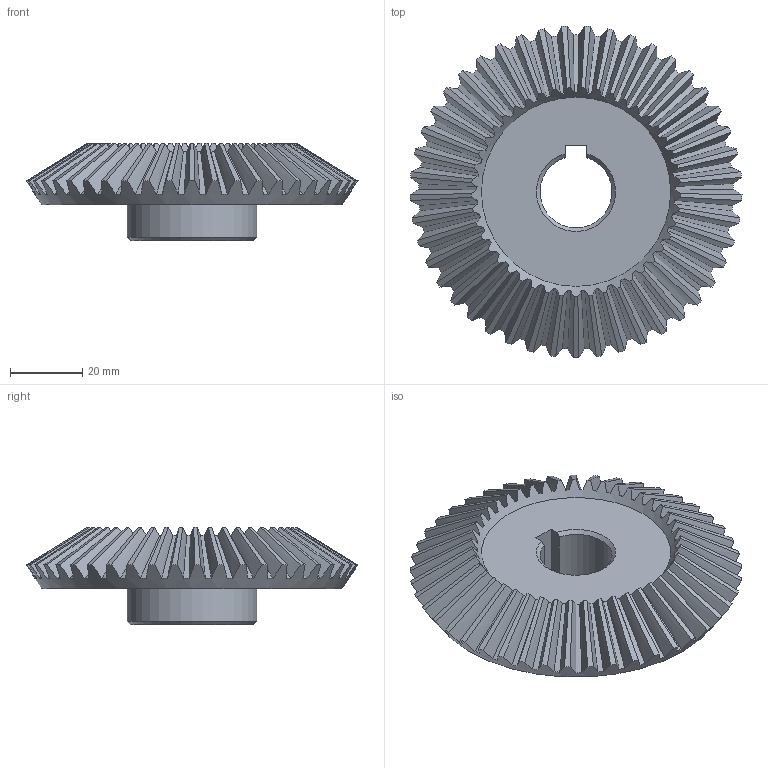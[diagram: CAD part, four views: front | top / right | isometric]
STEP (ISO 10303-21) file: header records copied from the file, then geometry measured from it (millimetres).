
FILE_DESCRIPTION(/* description */ (''),/* implementation_level */ '2;1');
FILE_NAME(/* name */ '',/* time_stamp */ '2026-01-09T11:20:43+09:00',/* author */ ('jhkim'),/* organization */ (''),/* preprocessor_version */ 'ST-DEVELOPER v20.1',/* originating_system */ 'Autodesk Inventor 2026',/* authorisation */ '');
FILE_SCHEMA (('AUTOMOTIVE_DESIGN { 1 0 10303 214 3 1 1 }'));
Length unit declared in the file: millimetre
Products named in the file (1): 베벨 기어(종동)
Bounding box: 92.2 x 92.16 x 27.14 mm (x, y, z)
Volume: 71826.9 mm3; surface area: 20973.7 mm2
Topology: 1 solids, 1 shells, 193 faces, 570 edges, 380 vertices
Faces by surface type: cone 95, bspline 90, plane 6, cylinder 2
Full cylindrical faces by diameter (mm): 36 x1
Entity records: 8339 total; most frequent: CARTESIAN_POINT 3942, ORIENTED_EDGE 1140, DIRECTION 606, EDGE_CURVE 570, VERTEX_POINT 380, B_SPLINE_CURVE_WITH_KNOTS 360, AXIS2_PLACEMENT_3D 296, EDGE_LOOP 196
